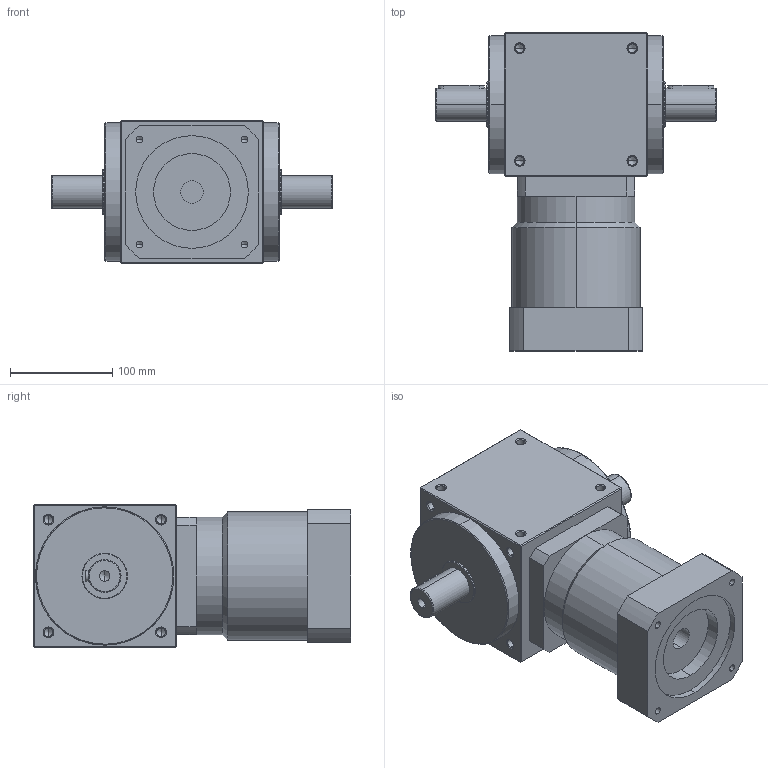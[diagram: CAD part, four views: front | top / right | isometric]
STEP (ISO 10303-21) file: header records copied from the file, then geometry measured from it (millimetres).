
FILE_DESCRIPTION (( 'STEP AP214' ), '1' );
FILE_NAME ('AT140-FL-L2--22-110-145-M8.STEP', '2020-11-19T05:00:28', ( '微软用户' ), ( '微软中国' ), 'SwSTEP 2.0', 'SolidWorks 2014', '' );
FILE_SCHEMA (( 'AUTOMOTIVE_DESIGN' ));
Length unit declared in the file: millimetre
Products named in the file (2): AT140-FL-L2--22-110-145-M8
Bounding box: 274 x 310.5 x 140 mm (x, y, z)
Volume: 5333694 mm3; surface area: 243398.1 mm2
Topology: 1 solids, 1 shells, 295 faces, 734 edges, 404 vertices
Faces by surface type: cylinder 126, cone 102, plane 59, bspline 8
Entity records: 11776 total; most frequent: CARTESIAN_POINT 2003, DIRECTION 1370, ORIENTED_EDGE 1364, EDGE_CURVE 682, AXIS2_PLACEMENT_3D 523, VERTEX_POINT 404, EDGE_LOOP 334, LINE 324
